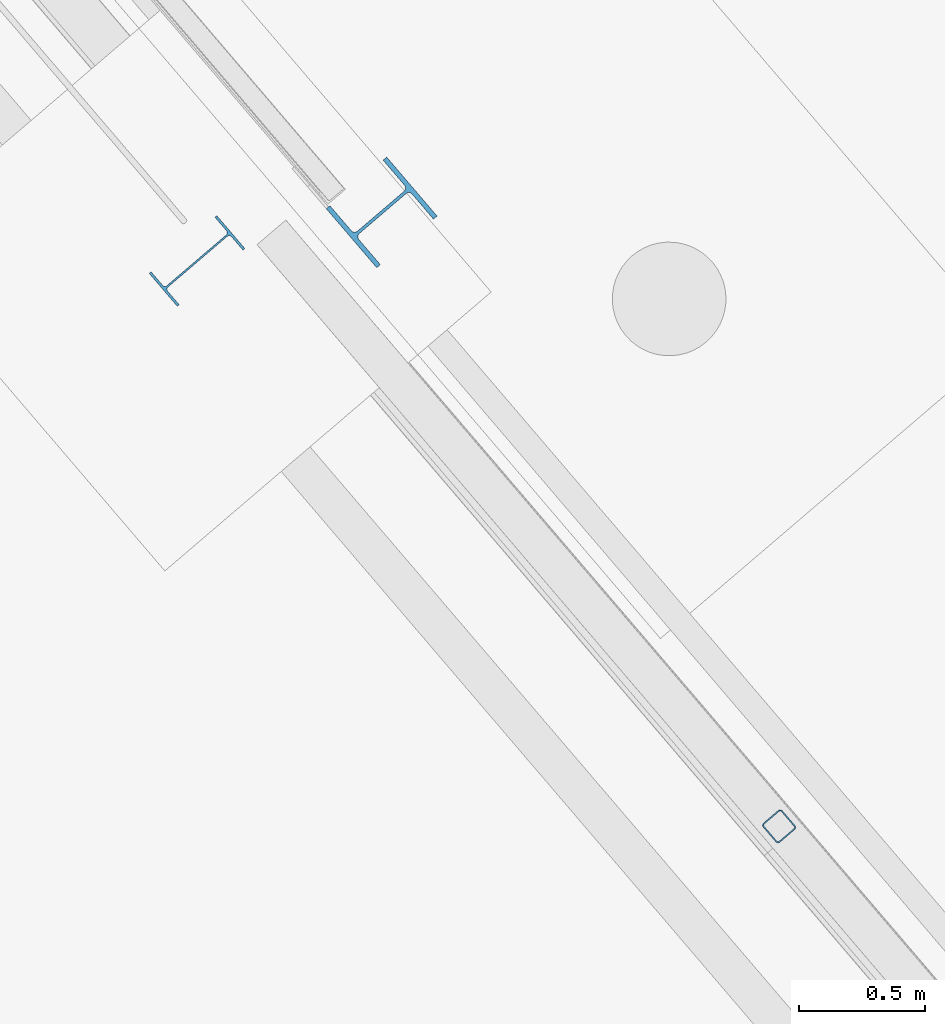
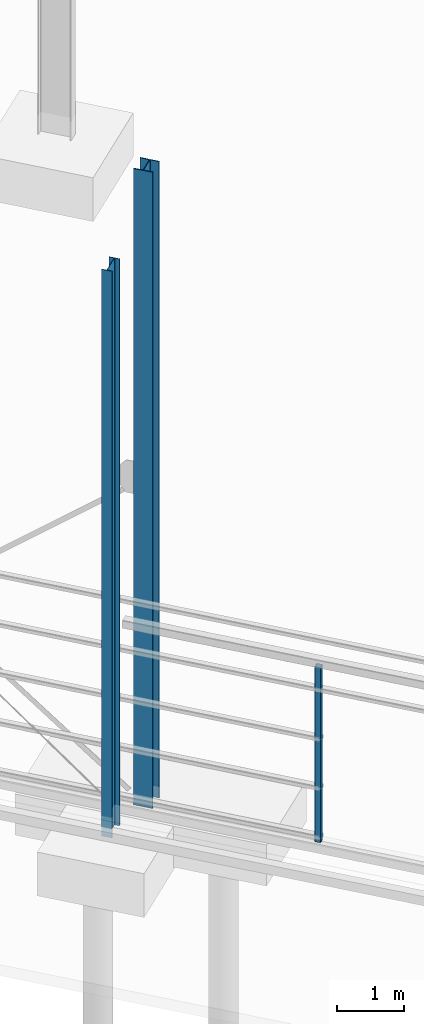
# One storey, part 2 of 41: 3 columns.
"""IFC2X3 building model written with IfcOpenShell, lengths in millimetres."""

from ifc_helpers import new_model, entity, si_unit, converted_unit, derived_unit, direction, frame, frame_2d, origin, place, context, subcontext, project, spatial, polyline, circle_curve, parameter, trimmed, segment, composite_curve, outline, extrude, source, transform, mapped, material, type_object, type_shapes, element, save


model = new_model("IFC2X3")

# Units and contexts
model_context = context("Model", 3, precision=0.01, world=origin(), true_north=direction((6.123031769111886e-17, 1.0)))
body_context = subcontext(model_context, "Body", "Model", "MODEL_VIEW")
ifc_project = project(units=[si_unit("LENGTHUNIT", "METRE", prefix="MILLI"), si_unit("AREAUNIT", "SQUARE_METRE"), si_unit("VOLUMEUNIT", "CUBIC_METRE"), converted_unit("PLANEANGLEUNIT", "DEGREE", entity("IfcRatioMeasure", 0.017453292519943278), si_unit("PLANEANGLEUNIT", "RADIAN"), dimensions=[0, 0, 0, 0, 0, 0, 0]), si_unit("MASSUNIT", "GRAM", prefix="KILO"), derived_unit("MASSDENSITYUNIT", [(si_unit("MASSUNIT", "GRAM", prefix="KILO"), 1), (si_unit("LENGTHUNIT", "METRE"), -3)]), derived_unit("MOMENTOFINERTIAUNIT", [(si_unit("LENGTHUNIT", "METRE"), 4)]), si_unit("TIMEUNIT", "SECOND"), si_unit("FREQUENCYUNIT", "HERTZ"), si_unit("THERMODYNAMICTEMPERATUREUNIT", "DEGREE_CELSIUS"), derived_unit("THERMALTRANSMITTANCEUNIT", [(si_unit("MASSUNIT", "GRAM", prefix="KILO"), 1), (si_unit("THERMODYNAMICTEMPERATUREUNIT", "KELVIN"), -1), (si_unit("TIMEUNIT", "SECOND"), -3)]), derived_unit("VOLUMETRICFLOWRATEUNIT", [(si_unit("LENGTHUNIT", "METRE"), 3), (si_unit("TIMEUNIT", "SECOND"), -1)]), derived_unit("MASSFLOWRATEUNIT", [(si_unit("MASSUNIT", "GRAM", prefix="KILO"), 1), (si_unit("TIMEUNIT", "SECOND"), -1)]), derived_unit("ROTATIONALFREQUENCYUNIT", [(si_unit("TIMEUNIT", "SECOND"), -1)]), si_unit("ELECTRICCURRENTUNIT", "AMPERE"), si_unit("ELECTRICVOLTAGEUNIT", "VOLT"), si_unit("POWERUNIT", "WATT"), si_unit("FORCEUNIT", "NEWTON", prefix="KILO"), si_unit("ILLUMINANCEUNIT", "LUX"), si_unit("LUMINOUSFLUXUNIT", "LUMEN"), si_unit("LUMINOUSINTENSITYUNIT", "CANDELA"), derived_unit("USERDEFINED", [(si_unit("MASSUNIT", "GRAM", prefix="KILO"), -1), (si_unit("LENGTHUNIT", "METRE"), -2), (si_unit("TIMEUNIT", "SECOND"), 3), (si_unit("LUMINOUSFLUXUNIT", "LUMEN"), 1)]), derived_unit("SOUNDPOWERUNIT", [(si_unit("MASSUNIT", "GRAM", prefix="KILO"), 1), (si_unit("LENGTHUNIT", "METRE"), 2), (si_unit("TIMEUNIT", "SECOND"), -3)]), derived_unit("LINEARVELOCITYUNIT", [(si_unit("LENGTHUNIT", "METRE"), 1), (si_unit("TIMEUNIT", "SECOND"), -1)]), si_unit("PRESSUREUNIT", "PASCAL"), derived_unit("USERDEFINED", [(si_unit("LENGTHUNIT", "METRE"), -2), (si_unit("MASSUNIT", "GRAM", prefix="KILO"), 1), (si_unit("TIMEUNIT", "SECOND"), -2)]), derived_unit("LINEARFORCEUNIT", [(si_unit("MASSUNIT", "GRAM", prefix="KILO"), 1), (si_unit("LENGTHUNIT", "METRE"), 1), (si_unit("TIMEUNIT", "SECOND"), -2), (si_unit("LENGTHUNIT", "METRE"), -1)]), derived_unit("PLANARFORCEUNIT", [(si_unit("MASSUNIT", "GRAM", prefix="KILO"), 1), (si_unit("LENGTHUNIT", "METRE"), 1), (si_unit("TIMEUNIT", "SECOND"), -2), (si_unit("LENGTHUNIT", "METRE"), -2)])], contexts=[model_context])

# Site, building, storey
site_placement = place(None, frame((962.4174930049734, -6014.433753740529, 0.0), z_axis=(0.0, 0.0, 1.0), x_axis=(0.7601792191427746, 0.649713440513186, 0.0)))
site = spatial("IfcSite", under=ifc_project, at=site_placement, Name="Default", CompositionType="ELEMENT")
building_placement = place(site_placement, origin())
building = spatial("IfcBuilding", under=site, at=building_placement, CompositionType="ELEMENT")
storey_placement = place(building_placement, origin())
storey = spatial("IfcBuildingStorey", under=building, at=storey_placement, Name="Datum", CompositionType="ELEMENT", Elevation=0.0)

# Columns
ifc_material = material(Name="Metal - Steel - 300 MPa")
column_type_1 = type_object("IfcColumnType", Name="ADSK_AU_UC-Universal Columns-Column (AS 3679_1):310UC118", PredefinedType="COLUMN", material=ifc_material)
shared_shape_1 = source(origin(), body_context, "Body", "SweptSolid", [
    extrude(outline(composite_curve([segment(polyline([(138.6, -153.49999999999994), (157.3, -153.49999999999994)]), True, "CONTINUOUS"), segment(polyline([(157.3, -153.49999999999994), (157.3, 153.49999999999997)]), True, "CONTINUOUS"), segment(polyline([(157.3, 153.49999999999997), (138.6, 153.49999999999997)]), True, "CONTINUOUS"), segment(polyline([(138.6, 153.49999999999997), (138.6, 22.45000000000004)]), True, "CONTINUOUS"), segment(trimmed(circle_curve(frame_2d((122.10000000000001, 22.44999999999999), x_axis=(1.0, 0.0)), 16.499999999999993), [parameter(269.9999999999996)], [parameter(0.0)], True, "PARAMETER"), False, "CONTINUOUS"), segment(polyline([(122.09999999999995, 5.95), (-122.09999999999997, 5.95)]), True, "CONTINUOUS"), segment(trimmed(circle_curve(frame_2d((-122.09999999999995, 22.450000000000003), x_axis=(0.0, -1.0)), 16.500000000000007), [parameter(269.9999999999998)], [parameter(0.0)], True, "PARAMETER"), False, "CONTINUOUS"), segment(polyline([(-138.59999999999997, 22.45000000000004), (-138.59999999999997, 153.49999999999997)]), True, "CONTINUOUS"), segment(polyline([(-138.59999999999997, 153.49999999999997), (-157.29999999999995, 153.49999999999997)]), True, "CONTINUOUS"), segment(polyline([(-157.29999999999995, 153.49999999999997), (-157.29999999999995, -153.49999999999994)]), True, "CONTINUOUS"), segment(polyline([(-157.29999999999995, -153.49999999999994), (-138.59999999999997, -153.49999999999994)]), True, "CONTINUOUS"), segment(polyline([(-138.59999999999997, -153.49999999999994), (-138.59999999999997, -22.449999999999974)]), True, "CONTINUOUS"), segment(trimmed(circle_curve(frame_2d((-122.09999999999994, -22.449999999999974), x_axis=(-1.0, 0.0)), 16.50000000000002), [parameter(269.9999999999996)], [parameter(0.0)], True, "PARAMETER"), False, "CONTINUOUS"), segment(polyline([(-122.09999999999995, -5.950000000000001), (122.10000000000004, -5.950000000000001)]), True, "CONTINUOUS"), segment(trimmed(circle_curve(frame_2d((122.10000000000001, -22.45000000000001), x_axis=(0.0, 1.0)), 16.500000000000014), [parameter(269.9999999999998)], [parameter(0.0)], True, "PARAMETER"), False, "CONTINUOUS"), segment(polyline([(138.6, -22.449999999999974), (138.6, -153.49999999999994)]), True, "CONTINUOUS")], self_intersect=False)), frame((0.0, 0.0, -200.0), z_axis=(0.0, 0.0, 1.0), x_axis=(0.0, -1.0, 0.0)), (0.0, 0.0, 1.0), 11630.000000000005),
])
type_shapes(column_type_1, [shared_shape_1])
column_1_placement = place(building_placement, frame((154571.26020471, -18370.815582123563, 0.0), z_axis=(0.0, 0.0, 1.0), x_axis=(0.0, 1.0, 0.0)))
element("IfcColumn", 1, at=column_1_placement, inside=storey, type_object=column_type_1, material=ifc_material, Name="ADSK_AU_UC-Universal Columns-Column (AS 3679_1):310UC118", ObjectType="ADSK_AU_UC-Universal Columns-Column (AS 3679_1):310UC118", context=body_context, shape_type="MappedRepresentation", body=[
    mapped(shared_shape_1, transform((0.0, 0.0, 0.0), scale=1.0)),
])
column_type_2 = type_object("IfcColumnType", Name="ADSK_AU_UB-Universal Beams-Column (AS 3679_1):360UB44.7 (EXISTING)", PredefinedType="COLUMN", material=ifc_material)
shared_shape_2 = source(origin(), body_context, "Body", "SweptSolid", [
    extrude(outline(composite_curve([segment(polyline([(166.3, -85.49999999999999), (176.0, -85.49999999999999)]), True, "CONTINUOUS"), segment(polyline([(176.0, -85.49999999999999), (176.0, 85.49999999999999)]), True, "CONTINUOUS"), segment(polyline([(176.0, 85.49999999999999), (166.3, 85.49999999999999)]), True, "CONTINUOUS"), segment(polyline([(166.3, 85.49999999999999), (166.3, 14.849999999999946)]), True, "CONTINUOUS"), segment(trimmed(circle_curve(frame_2d((154.90000000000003, 14.849999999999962), x_axis=(1.0, 0.0)), 11.39999999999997), [parameter(269.99999999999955)], [parameter(0.0)], True, "PARAMETER"), False, "CONTINUOUS"), segment(polyline([(154.90000000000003, 3.4499999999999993), (-154.89999999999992, 3.4499999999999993)]), True, "CONTINUOUS"), segment(trimmed(circle_curve(frame_2d((-154.89999999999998, 14.850000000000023), x_axis=(0.0, -1.0)), 11.40000000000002), [parameter(269.99999999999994)], [parameter(0.0)], True, "PARAMETER"), False, "CONTINUOUS"), segment(polyline([(-166.3, 14.850000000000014), (-166.3, 85.49999999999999)]), True, "CONTINUOUS"), segment(polyline([(-166.3, 85.49999999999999), (-176.0, 85.49999999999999)]), True, "CONTINUOUS"), segment(polyline([(-176.0, 85.49999999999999), (-176.0, -85.49999999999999)]), True, "CONTINUOUS"), segment(polyline([(-176.0, -85.49999999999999), (-166.3, -85.49999999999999)]), True, "CONTINUOUS"), segment(polyline([(-166.3, -85.49999999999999), (-166.3, -14.850000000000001)]), True, "CONTINUOUS"), segment(trimmed(circle_curve(frame_2d((-154.89999999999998, -14.85000000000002), x_axis=(-1.0, 0.0)), 11.400000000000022), [parameter(269.99999999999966)], [parameter(0.0)], True, "PARAMETER"), False, "CONTINUOUS"), segment(polyline([(-154.89999999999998, -3.4499999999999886), (154.89999999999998, -3.4499999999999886)]), True, "CONTINUOUS"), segment(trimmed(circle_curve(frame_2d((154.90000000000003, -14.849999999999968), x_axis=(0.0, 1.0)), 11.399999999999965), [parameter(269.99999999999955)], [parameter(0.0)], True, "PARAMETER"), False, "CONTINUOUS"), segment(polyline([(166.3, -14.849999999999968), (166.3, -85.49999999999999)]), True, "CONTINUOUS")], self_intersect=False)), frame((0.0, 0.0, -370.0), z_axis=(0.0, 0.0, 1.0), x_axis=(0.0, -1.0, 0.0)), (0.0, 0.0, 1.0), 10360.000000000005),
])
type_shapes(column_type_2, [shared_shape_2])
column_2_placement = place(building_placement, frame((153890.4602047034, -18042.078856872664, 0.0), z_axis=(0.0, 0.0, 1.0), x_axis=(0.0, 1.0, 0.0)))
element("IfcColumn", 2, at=column_2_placement, inside=storey, type_object=column_type_2, material=ifc_material, Name="ADSK_AU_UB-Universal Beams-Column (AS 3679_1):360UB44.7 (EXISTING)", ObjectType="ADSK_AU_UB-Universal Beams-Column (AS 3679_1):360UB44.7 (EXISTING)", context=body_context, shape_type="MappedRepresentation", body=[
    mapped(shared_shape_2, transform((0.0, 0.0, 0.0), scale=1.0)),
])
column_type_3 = type_object("IfcColumnType", Name="ADSK_AU_SHS-Square Hollow Sections-Column (AS 1163_C350):100x100x5.0SHS", PredefinedType="COLUMN", material=ifc_material)
shared_shape_3 = source(origin(), body_context, "Body", "SweptSolid", [
    extrude(outline(composite_curve([segment(polyline([(-37.50000000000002, -50.0), (37.50000000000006, -50.0)]), True, "CONTINUOUS"), segment(trimmed(circle_curve(frame_2d((37.49999999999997, -37.50000000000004), x_axis=(-1.0, 0.0)), 12.499999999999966), [parameter(90.00000000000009)], [parameter(180.00000000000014)], True, "PARAMETER"), True, "CONTINUOUS"), segment(polyline([(50.0, -37.500000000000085), (50.0, 37.50000000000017)]), True, "CONTINUOUS"), segment(trimmed(circle_curve(frame_2d((37.49999999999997, 37.50000000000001), x_axis=(-1.0, 0.0)), 12.499999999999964), [parameter(180.00000000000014)], [parameter(269.9999999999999)], True, "PARAMETER"), True, "CONTINUOUS"), segment(polyline([(37.49999999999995, 50.0), (-37.5, 50.0)]), True, "CONTINUOUS"), segment(trimmed(circle_curve(frame_2d((-37.5, 37.5), x_axis=(-1.0, 0.0)), 12.499999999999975), [parameter(269.99999999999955)], [parameter(359.9999999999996)], True, "PARAMETER"), True, "CONTINUOUS"), segment(polyline([(-50.0, 37.5), (-50.0, -37.50000000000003)]), True, "CONTINUOUS"), segment(trimmed(circle_curve(frame_2d((-37.5, -37.50000000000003), x_axis=(-1.0, 0.0)), 12.499999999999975), [parameter(359.99999999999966)], [parameter(89.99999999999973)], True, "PARAMETER"), True, "CONTINUOUS")], self_intersect=False), holes=[composite_curve([segment(trimmed(circle_curve(frame_2d((-37.5, -37.500000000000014), x_axis=(-1.0, 0.0)), 7.500000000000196), [parameter(359.9999999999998)], [parameter(89.99999999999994)], True, "PARAMETER"), False, "CONTINUOUS"), segment(polyline([(-45.0, -37.49999999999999), (-45.0, 37.499999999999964)]), True, "CONTINUOUS"), segment(trimmed(circle_curve(frame_2d((-37.5, 37.49999999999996), x_axis=(-1.0, 0.0)), 7.499999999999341), [parameter(270.00000000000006)], [parameter(359.9999999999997)], True, "PARAMETER"), False, "CONTINUOUS"), segment(polyline([(-37.50000000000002, 45.0), (37.500000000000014, 45.0)]), True, "CONTINUOUS"), segment(trimmed(circle_curve(frame_2d((37.49999999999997, 37.49999999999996), x_axis=(-1.0, 0.0)), 7.499999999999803), [parameter(180.0000000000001)], [parameter(270.00000000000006)], True, "PARAMETER"), False, "CONTINUOUS"), segment(polyline([(45.0, 37.5), (45.0, -37.50000000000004)]), True, "CONTINUOUS"), segment(trimmed(circle_curve(frame_2d((37.49999999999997, -37.500000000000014), x_axis=(-1.0, 0.0)), 7.500000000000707), [parameter(90.00000000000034)], [parameter(180.0000000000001)], True, "PARAMETER"), False, "CONTINUOUS"), segment(polyline([(37.50000000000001, -45.0), (-37.50000000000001, -45.0)]), True, "CONTINUOUS")], self_intersect=False)]), frame((0.0, 0.0, 0.0), z_axis=(0.0, 0.0, 1.0), x_axis=(-1.0, 0.0, 0.0)), (0.0, 0.0, 1.0), 3200.0),
])
type_shapes(column_type_3, [shared_shape_3])
column_3_placement = place(building_placement, frame((154187.96020470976, -21241.428082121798, 0.0), z_axis=(0.0, 0.0, 1.0), x_axis=(0.0, 1.0, 0.0)))
element("IfcColumn", 3, at=column_3_placement, inside=storey, type_object=column_type_3, material=ifc_material, Name="ADSK_AU_SHS-Square Hollow Sections-Column (AS 1163_C350):100x100x5.0SHS", ObjectType="ADSK_AU_SHS-Square Hollow Sections-Column (AS 1163_C350):100x100x5.0SHS", context=body_context, shape_type="MappedRepresentation", body=[
    mapped(shared_shape_3, transform((0.0, 0.0, 0.0), scale=1.0)),
])

save(model, "model.ifc")
